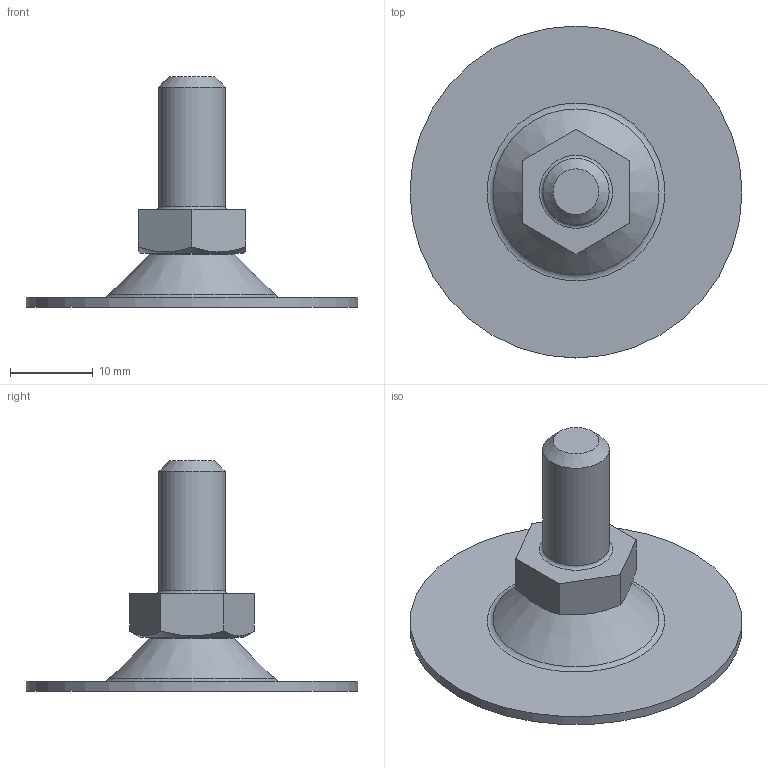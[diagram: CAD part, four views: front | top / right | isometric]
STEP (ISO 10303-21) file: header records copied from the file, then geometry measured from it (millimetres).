
FILE_DESCRIPTION(('STEP AP203'), '1');
FILE_NAME('A00050.1040816', '', ('UNSPECIFIED'), ('UNSPECIFIED'), 'C3D Converter', 'C3D Toolkit', '');
FILE_SCHEMA(('CONFIG_CONTROL_DESIGN'));
Length unit declared in the file: millimetre
Products named in the file (4): A00050.1040816; A00050.1040; А00050.ХХХХ
Assembly tree (3 placements, depth 2):
  A00050.1040816
    A00050.1040
    А00050.ХХХХ
    (unnamed)
Bounding box: 40 x 40 x 27.78 mm (x, y, z)
Volume: 3221.4 mm3; surface area: 4178.1 mm2
Topology: 3 solids, 3 shells, 58 faces, 130 edges, 82 vertices
Faces by surface type: plane 28, torus 8, bspline 8, cone 7, cylinder 6, sphere 1
Full cylindrical faces by diameter (mm): 3.3 x1, 4 x1, 4.5 x1, 8 x2, 40 x1
Entity records: 2171 total; most frequent: CARTESIAN_POINT 784, DIRECTION 242, ORIENTED_EDGE 214, EDGE_CURVE 107, AXIS2_PLACEMENT_3D 95, EDGE_LOOP 86, VERTEX_POINT 81, ADVANCED_FACE 58
